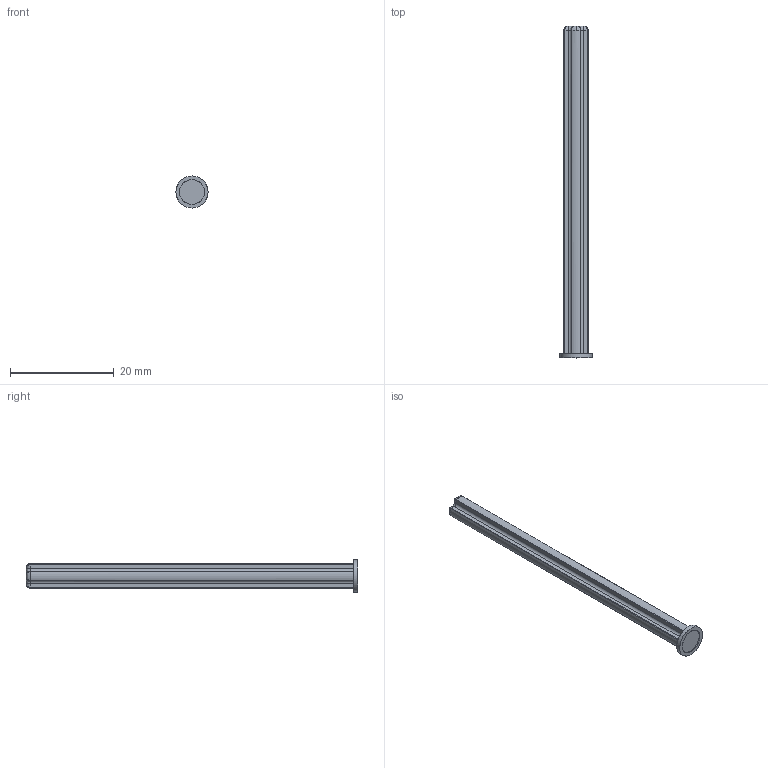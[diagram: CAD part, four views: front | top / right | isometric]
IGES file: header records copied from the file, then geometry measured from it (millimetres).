
Start section: C
Global section: file name: Gray_4499858_JCA.iges; native system: By Siemens PLM Incorporated; preprocessor: XPlus GENERIC/IGES 26.1.183; author: Author; organization: Title; date: 20250721.235859; units: millimetre
Bounding box: 6.2 x 64 x 6.2 mm (x, y, z)
Surface area: 1146.3 mm2 (no closed solid volume)
Topology: 0 solids, 0 shells, 56 faces, 264 edges, 256 vertices
Faces by surface type: bspline 56
